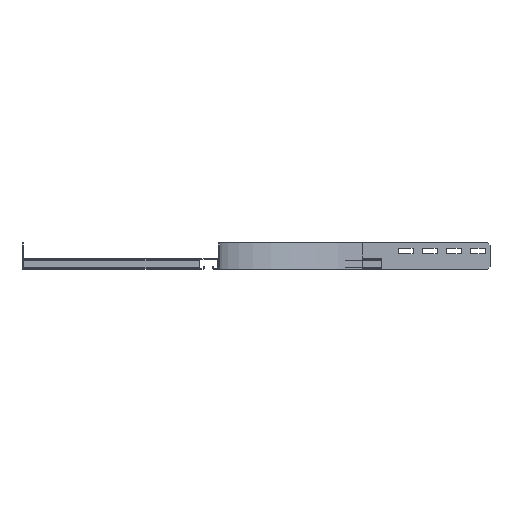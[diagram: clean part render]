
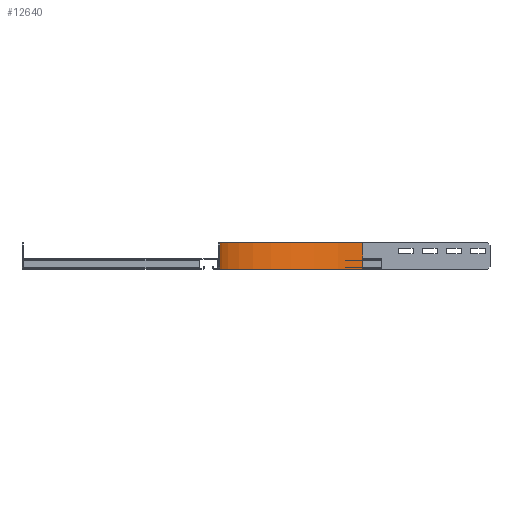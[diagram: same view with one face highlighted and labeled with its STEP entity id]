
A CAD part, left-side view. The second image highlights one B-rep face of the part: STEP entity #12640.
In plain terms, the highlighted cylindrical face has radius 297 mm (diameter 594 mm), a partial arc.
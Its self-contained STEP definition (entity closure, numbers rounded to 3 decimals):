
#450=CARTESIAN_POINT('',(297.,-300.,-90.));
#460=VERTEX_POINT('',#450);
#490=CARTESIAN_POINT('',(0.,-300.,-90.));
#500=DIRECTION('',(0.,0.,-1.));
#510=DIRECTION('',(-1.,0.,0.));
#520=AXIS2_PLACEMENT_3D('',#490,#500,#510);
#530=CIRCLE('',#520,297.);
#540=CARTESIAN_POINT('',(0.,-3.,-90.));
#550=VERTEX_POINT('',#540);
#560=EDGE_CURVE('',#550,#460,#530,.T.);
#2970=CARTESIAN_POINT('',(0.,-3.,-145.));
#2980=VERTEX_POINT('',#2970);
#3010=CARTESIAN_POINT('',(0.,-300.,-145.));
#3020=DIRECTION('',(0.,0.,-1.));
#3030=DIRECTION('',(-1.,0.,0.));
#3040=AXIS2_PLACEMENT_3D('',#3010,#3020,#3030);
#3050=CIRCLE('',#3040,297.);
#3060=CARTESIAN_POINT('',(297.,-300.,-145.));
#3070=VERTEX_POINT('',#3060);
#3080=EDGE_CURVE('',#2980,#3070,#3050,.T.);
#7150=CARTESIAN_POINT('',(297.,-300.,0.));
#7160=DIRECTION('',(0.,0.,-1.));
#7170=VECTOR('',#7160,1.);
#7180=LINE('',#7150,#7170);
#7190=EDGE_CURVE('',#460,#3070,#7180,.T.);
#8740=CARTESIAN_POINT('',(0.,-3.,0.));
#8750=DIRECTION('',(0.,0.,-1.));
#8760=VECTOR('',#8750,1.);
#8770=LINE('',#8740,#8760);
#8780=EDGE_CURVE('',#550,#2980,#8770,.T.);
#12530=CARTESIAN_POINT('',(0.,-300.,0.));
#12540=DIRECTION('',(0.,0.,-1.));
#12550=DIRECTION('',(-1.,0.,0.));
#12560=AXIS2_PLACEMENT_3D('',#12530,#12540,#12550);
#12570=CYLINDRICAL_SURFACE('',#12560,297.);
#12580=ORIENTED_EDGE('',*,*,#560,.F.);
#12590=ORIENTED_EDGE('',*,*,#7190,.F.);
#12600=ORIENTED_EDGE('',*,*,#3080,.T.);
#12610=ORIENTED_EDGE('',*,*,#8780,.T.);
#12620=EDGE_LOOP('',(#12610,#12600,#12590,#12580));
#12630=FACE_OUTER_BOUND('',#12620,.T.);
#12640=ADVANCED_FACE('',(#12630),#12570,.F.);
